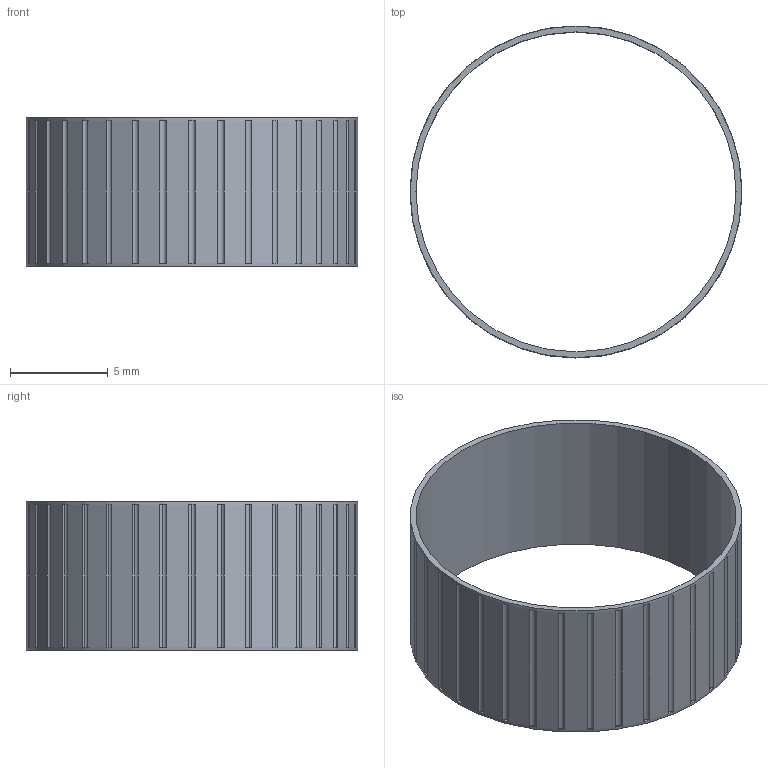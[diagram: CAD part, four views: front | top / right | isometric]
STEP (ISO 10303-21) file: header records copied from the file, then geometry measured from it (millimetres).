
FILE_DESCRIPTION(('Open CASCADE Model'),'2;1');
FILE_NAME('Open CASCADE Shape Model','2026-10-24T17:46:06',('Author'),( 'Open CASCADE'),'Open CASCADE STEP processor 8.0','Open CASCADE 8.0' ,'Unknown');
FILE_SCHEMA(('AUTOMOTIVE_DESIGN { 1 0 10303 214 1 1 1 1 }'));
Length unit declared in the file: millimetre
Products named in the file (1): Open CASCADE STEP translator 8.0 1
Bounding box: 17 x 17 x 7.6 mm (x, y, z)
Volume: 111.9 mm3; surface area: 857.7 mm2
Topology: 1 solids, 1 shells, 125 faces, 264 edges, 176 vertices
Faces by surface type: plane 74, cylinder 51
Full cylindrical faces by diameter (mm): 16.4 x1, 17 x1
Entity records: 6756 total; most frequent: CARTESIAN_POINT 1238, DIRECTION 1076, ORIENTED_EDGE 528, PCURVE 528, DEFINITIONAL_REPRESENTATION 528, CIRCLE 352, AXIS2_PLACEMENT_3D 302, LINE 296
